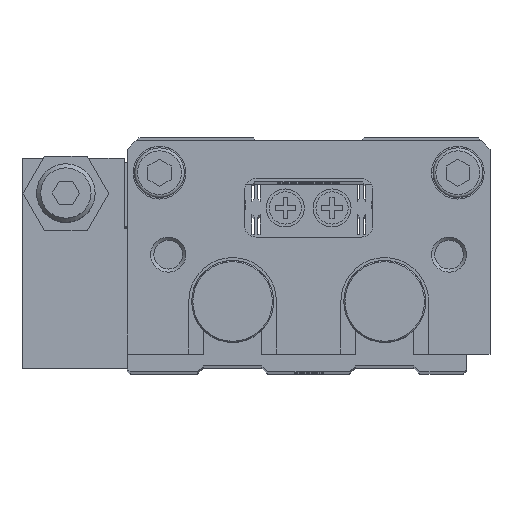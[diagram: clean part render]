
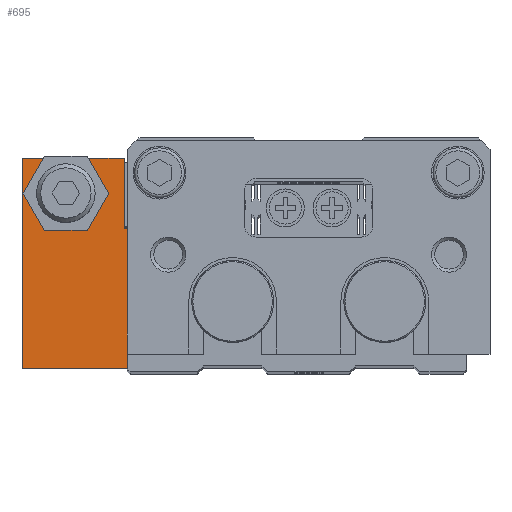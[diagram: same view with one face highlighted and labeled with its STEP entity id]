
A CAD part, top view. The second image highlights one B-rep face of the part: STEP entity #695.
In plain terms, the highlighted planar face has unit normal (0, 0, 1).
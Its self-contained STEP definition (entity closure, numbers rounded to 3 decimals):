
#695 = ADVANCED_FACE( '', ( #1843 ), #1844, .T. );
#1843 = FACE_OUTER_BOUND( '', #3708, .T. );
#1844 = PLANE( '', #3709 );
#3708 = EDGE_LOOP( '', ( #5749, #5750, #5751, #5752, #5753, #5754, #5755, #5756, #5757, #5758, #5759, #5760 ) );
#3709 = AXIS2_PLACEMENT_3D( '', #5761, #5762, #5763 );
#5749 = ORIENTED_EDGE( '', *, *, #10036, .T. );
#5750 = ORIENTED_EDGE( '', *, *, #10037, .F. );
#5751 = ORIENTED_EDGE( '', *, *, #10038, .F. );
#5752 = ORIENTED_EDGE( '', *, *, #10039, .F. );
#5753 = ORIENTED_EDGE( '', *, *, #10040, .F. );
#5754 = ORIENTED_EDGE( '', *, *, #10041, .F. );
#5755 = ORIENTED_EDGE( '', *, *, #10042, .T. );
#5756 = ORIENTED_EDGE( '', *, *, #10043, .T. );
#5757 = ORIENTED_EDGE( '', *, *, #10044, .T. );
#5758 = ORIENTED_EDGE( '', *, *, #10045, .T. );
#5759 = ORIENTED_EDGE( '', *, *, #10046, .T. );
#5760 = ORIENTED_EDGE( '', *, *, #10047, .T. );
#5761 = CARTESIAN_POINT( '', ( 0., 0., 5.5 ) );
#5762 = DIRECTION( '', ( 0., 0., 1. ) );
#5763 = DIRECTION( '', ( 1., 0., 0. ) );
#10036 = EDGE_CURVE( '', #11852, #11853, #11854, .T. );
#10037 = EDGE_CURVE( '', #11855, #11853, #11856, .T. );
#10038 = EDGE_CURVE( '', #11857, #11855, #11858, .T. );
#10039 = EDGE_CURVE( '', #11859, #11857, #11860, .T. );
#10040 = EDGE_CURVE( '', #11861, #11859, #11862, .T. );
#10041 = EDGE_CURVE( '', #11863, #11861, #11864, .T. );
#10042 = EDGE_CURVE( '', #11863, #11865, #11866, .T. );
#10043 = EDGE_CURVE( '', #11865, #11867, #11868, .T. );
#10044 = EDGE_CURVE( '', #11867, #11869, #11870, .T. );
#10045 = EDGE_CURVE( '', #11869, #11871, #11872, .T. );
#10046 = EDGE_CURVE( '', #11871, #11873, #11874, .T. );
#10047 = EDGE_CURVE( '', #11873, #11852, #11875, .T. );
#11852 = VERTEX_POINT( '', #14473 );
#11853 = VERTEX_POINT( '', #14474 );
#11854 = LINE( '', #14475, #14476 );
#11855 = VERTEX_POINT( '', #14477 );
#11856 = LINE( '', #14478, #14479 );
#11857 = VERTEX_POINT( '', #14480 );
#11858 = LINE( '', #14481, #14482 );
#11859 = VERTEX_POINT( '', #14483 );
#11860 = LINE( '', #14484, #14485 );
#11861 = VERTEX_POINT( '', #14486 );
#11862 = LINE( '', #14487, #14488 );
#11863 = VERTEX_POINT( '', #14489 );
#11864 = LINE( '', #14490, #14491 );
#11865 = VERTEX_POINT( '', #14492 );
#11866 = LINE( '', #14493, #14494 );
#11867 = VERTEX_POINT( '', #14495 );
#11868 = LINE( '', #14496, #14497 );
#11869 = VERTEX_POINT( '', #14498 );
#11870 = LINE( '', #14499, #14500 );
#11871 = VERTEX_POINT( '', #14501 );
#11872 = LINE( '', #14502, #14503 );
#11873 = VERTEX_POINT( '', #14504 );
#11874 = LINE( '', #14505, #14506 );
#11875 = LINE( '', #14507, #14508 );
#14473 = CARTESIAN_POINT( '', ( -17.5, 0., 5.5 ) );
#14474 = CARTESIAN_POINT( '', ( -11.368, 0., 5.5 ) );
#14475 = CARTESIAN_POINT( '', ( -17.5, 0., 5.5 ) );
#14476 = VECTOR( '', #17546, 1000. );
#14477 = CARTESIAN_POINT( '', ( -14.832, 6., 5.5 ) );
#14478 = CARTESIAN_POINT( '', ( -14.832, 6., 5.5 ) );
#14479 = VECTOR( '', #17547, 1000. );
#14480 = CARTESIAN_POINT( '', ( -11.166, 12.35, 5.5 ) );
#14481 = CARTESIAN_POINT( '', ( -11.166, 12.35, 5.5 ) );
#14482 = VECTOR( '', #17548, 1000. );
#14483 = CARTESIAN_POINT( '', ( -3.834, 12.35, 5.5 ) );
#14484 = CARTESIAN_POINT( '', ( -3.834, 12.35, 5.5 ) );
#14485 = VECTOR( '', #17549, 1000. );
#14486 = CARTESIAN_POINT( '', ( -0.168, 6., 5.5 ) );
#14487 = CARTESIAN_POINT( '', ( -0.168, 6., 5.5 ) );
#14488 = VECTOR( '', #17550, 1000. );
#14489 = CARTESIAN_POINT( '', ( -3.632, 0., 5.5 ) );
#14490 = CARTESIAN_POINT( '', ( -3.834, -0.35, 5.5 ) );
#14491 = VECTOR( '', #17551, 1000. );
#14492 = CARTESIAN_POINT( '', ( 0., 0., 5.5 ) );
#14493 = CARTESIAN_POINT( '', ( -17.5, 0., 5.5 ) );
#14494 = VECTOR( '', #17552, 1000. );
#14495 = CARTESIAN_POINT( '', ( 0., 36., 5.5 ) );
#14496 = CARTESIAN_POINT( '', ( 0., 0., 5.5 ) );
#14497 = VECTOR( '', #17553, 1000. );
#14498 = CARTESIAN_POINT( '', ( -19., 36., 5.5 ) );
#14499 = CARTESIAN_POINT( '', ( 0., 36., 5.5 ) );
#14500 = VECTOR( '', #17554, 1000. );
#14501 = CARTESIAN_POINT( '', ( -19., 12., 5.5 ) );
#14502 = CARTESIAN_POINT( '', ( -19., 36., 5.5 ) );
#14503 = VECTOR( '', #17555, 1000. );
#14504 = CARTESIAN_POINT( '', ( -17.5, 12., 5.5 ) );
#14505 = CARTESIAN_POINT( '', ( -19., 12., 5.5 ) );
#14506 = VECTOR( '', #17556, 1000. );
#14507 = CARTESIAN_POINT( '', ( -17.5, 12., 5.5 ) );
#14508 = VECTOR( '', #17557, 1000. );
#17546 = DIRECTION( '', ( 1., 0., 0. ) );
#17547 = DIRECTION( '', ( 0.5, -0.866, 0. ) );
#17548 = DIRECTION( '', ( -0.5, -0.866, 0. ) );
#17549 = DIRECTION( '', ( -1., 0., 0. ) );
#17550 = DIRECTION( '', ( -0.5, 0.866, 0. ) );
#17551 = DIRECTION( '', ( 0.5, 0.866, 0. ) );
#17552 = DIRECTION( '', ( 1., 0., 0. ) );
#17553 = DIRECTION( '', ( 0., 1., 0. ) );
#17554 = DIRECTION( '', ( -1., 0., 0. ) );
#17555 = DIRECTION( '', ( 0., -1., 0. ) );
#17556 = DIRECTION( '', ( 1., 0., 0. ) );
#17557 = DIRECTION( '', ( 0., -1., 0. ) );
